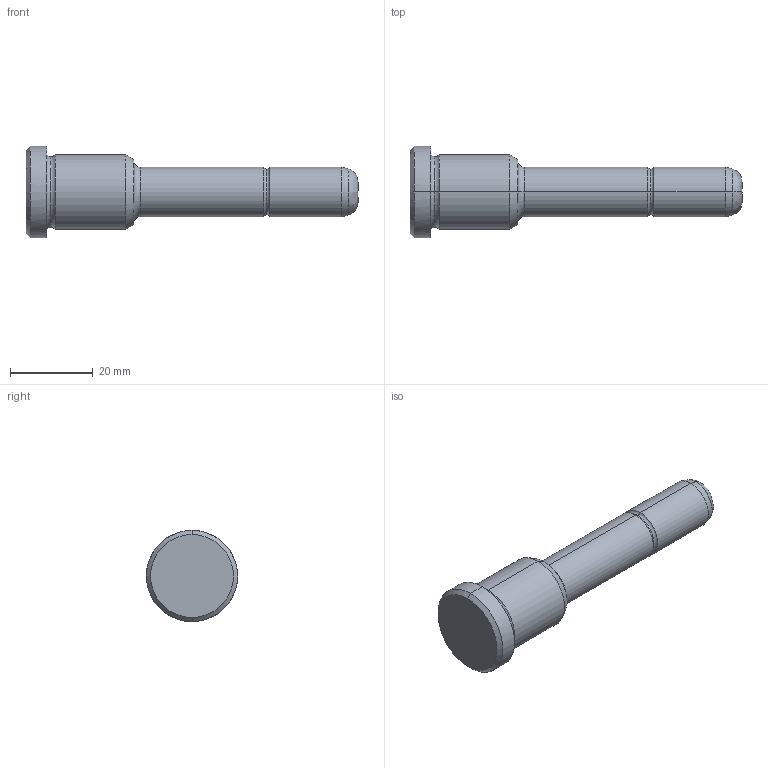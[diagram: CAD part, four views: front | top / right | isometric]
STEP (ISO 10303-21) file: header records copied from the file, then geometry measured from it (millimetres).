
FILE_DESCRIPTION(('CATIA V5 STEP Exchange'),'2;1');
FILE_NAME('C:\Users\Utente\Desktop\IO LAVORO\3D X SITO CF\X SITO\PLASTICA\351\351-12X26X80.stp','2021-08-17T12:09:45+00:00',('none'),('none'),'CATIA Version 5 Release 20 GA (IN-10)','CATIA V5 STEP AP203','none');
FILE_SCHEMA(('CONFIG_CONTROL_DESIGN'));
Length unit declared in the file: millimetre
Products named in the file (1): 351-12X26X80
Bounding box: 80 x 22 x 22 mm (x, y, z)
Volume: 13110.6 mm3; surface area: 4169 mm2
Topology: 1 solids, 1 shells, 30 faces, 86 edges, 60 vertices
Faces by surface type: torus 10, cylinder 8, cone 6, plane 4, bspline 2
Entity records: 1128 total; most frequent: CARTESIAN_POINT 343, ORIENTED_EDGE 172, DIRECTION 124, EDGE_CURVE 86, AXIS2_PLACEMENT_3D 83, VERTEX_POINT 60, CIRCLE 54, EDGE_LOOP 32
